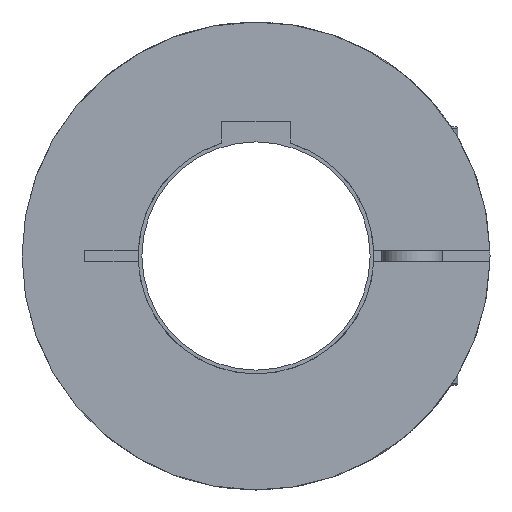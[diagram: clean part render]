
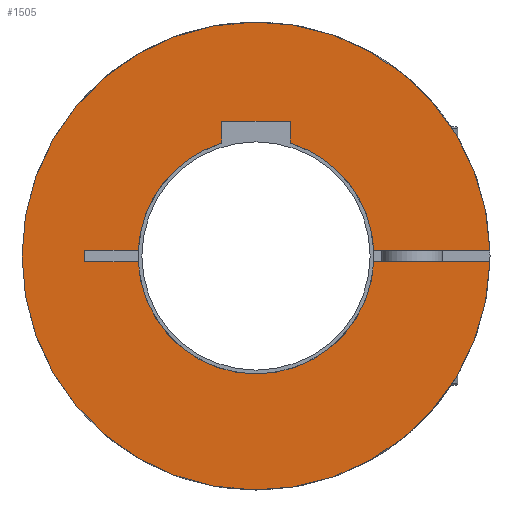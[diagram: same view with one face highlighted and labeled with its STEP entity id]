
A CAD part, left-side view. The second image highlights one B-rep face of the part: STEP entity #1505.
In plain terms, the highlighted planar face has unit normal (-1, 0, 0).
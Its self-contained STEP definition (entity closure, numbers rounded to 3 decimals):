
#42=PLANE('',#1710);
#142=LINE('',#2670,#253);
#144=LINE('',#2674,#255);
#145=LINE('',#2676,#256);
#156=LINE('',#2698,#267);
#159=LINE('',#2704,#270);
#174=LINE('',#2730,#285);
#175=LINE('',#2732,#286);
#194=LINE('',#2773,#305);
#253=VECTOR('',#2040,1.);
#255=VECTOR('',#2044,1.);
#256=VECTOR('',#2047,1.);
#267=VECTOR('',#2068,27.564);
#270=VECTOR('',#2075,27.564);
#285=VECTOR('',#2102,44.046);
#286=VECTOR('',#2105,44.046);
#305=VECTOR('',#2144,3.);
#403=FACE_OUTER_BOUND('',#503,.T.);
#503=EDGE_LOOP('',(#1303,#1304,#1305,#1306,#1307,#1308,#1309,#1310,#1311,
#1312,#1313,#1314));
#624=CIRCLE('',#1657,61.5);
#637=CIRCLE('',#1676,31.);
#640=CIRCLE('',#1680,31.);
#642=CIRCLE('',#1682,31.);
#718=VERTEX_POINT('',#2537);
#719=VERTEX_POINT('',#2539);
#739=VERTEX_POINT('',#2636);
#740=VERTEX_POINT('',#2637);
#745=VERTEX_POINT('',#2648);
#746=VERTEX_POINT('',#2650);
#749=VERTEX_POINT('',#2656);
#750=VERTEX_POINT('',#2658);
#753=VERTEX_POINT('',#2668);
#754=VERTEX_POINT('',#2672);
#760=VERTEX_POINT('',#2696);
#761=VERTEX_POINT('',#2703);
#890=EDGE_CURVE('',#718,#719,#624,.T.);
#915=EDGE_CURVE('',#739,#740,#637,.T.);
#921=EDGE_CURVE('',#746,#745,#640,.T.);
#925=EDGE_CURVE('',#750,#749,#642,.T.);
#931=EDGE_CURVE('',#749,#753,#142,.T.);
#933=EDGE_CURVE('',#753,#754,#144,.T.);
#934=EDGE_CURVE('',#754,#746,#145,.T.);
#945=EDGE_CURVE('',#760,#740,#156,.T.);
#948=EDGE_CURVE('',#761,#750,#159,.T.);
#963=EDGE_CURVE('',#745,#719,#174,.T.);
#964=EDGE_CURVE('',#718,#739,#175,.T.);
#983=EDGE_CURVE('',#761,#760,#194,.T.);
#1303=ORIENTED_EDGE('',*,*,#915,.T.);
#1304=ORIENTED_EDGE('',*,*,#945,.F.);
#1305=ORIENTED_EDGE('',*,*,#983,.F.);
#1306=ORIENTED_EDGE('',*,*,#948,.T.);
#1307=ORIENTED_EDGE('',*,*,#925,.T.);
#1308=ORIENTED_EDGE('',*,*,#931,.T.);
#1309=ORIENTED_EDGE('',*,*,#933,.T.);
#1310=ORIENTED_EDGE('',*,*,#934,.T.);
#1311=ORIENTED_EDGE('',*,*,#921,.T.);
#1312=ORIENTED_EDGE('',*,*,#963,.T.);
#1313=ORIENTED_EDGE('',*,*,#890,.F.);
#1314=ORIENTED_EDGE('',*,*,#964,.T.);
#1505=ADVANCED_FACE('',(#403),#42,.T.);
#1657=AXIS2_PLACEMENT_3D('',#2540,#1964,#1965);
#1676=AXIS2_PLACEMENT_3D('',#2638,#2012,#2013);
#1680=AXIS2_PLACEMENT_3D('',#2651,#2023,#2024);
#1682=AXIS2_PLACEMENT_3D('',#2659,#2029,#2030);
#1710=AXIS2_PLACEMENT_3D('',#2772,#2142,#2143);
#1964=DIRECTION('center_axis',(1.,0.,0.));
#1965=DIRECTION('ref_axis',(0.,1.,0.));
#2012=DIRECTION('center_axis',(1.,0.,0.));
#2013=DIRECTION('ref_axis',(0.,0.,1.));
#2023=DIRECTION('center_axis',(1.,0.,0.));
#2024=DIRECTION('ref_axis',(0.,0.,1.));
#2029=DIRECTION('center_axis',(1.,0.,0.));
#2030=DIRECTION('ref_axis',(0.,0.,1.));
#2040=DIRECTION('',(0.,0.,1.));
#2044=DIRECTION('',(0.,-1.,0.));
#2047=DIRECTION('',(0.,0.,-1.));
#2068=DIRECTION('',(0.,-1.,0.));
#2075=DIRECTION('',(0.,-1.,0.));
#2102=DIRECTION('',(0.,-1.,0.));
#2105=DIRECTION('',(0.,1.,0.));
#2142=DIRECTION('center_axis',(-1.,0.,0.));
#2143=DIRECTION('ref_axis',(0.,-1.,0.));
#2144=DIRECTION('',(0.,0.,-1.));
#2537=CARTESIAN_POINT('',(0.,-61.482,-1.5));
#2539=CARTESIAN_POINT('',(0.,-61.482,1.5));
#2540=CARTESIAN_POINT('Origin',(0.,0.,0.));
#2636=CARTESIAN_POINT('',(0.,-30.964,-1.5));
#2637=CARTESIAN_POINT('',(0.,30.964,-1.5));
#2638=CARTESIAN_POINT('Origin',(0.,0.,0.));
#2648=CARTESIAN_POINT('',(0.,-30.964,1.5));
#2650=CARTESIAN_POINT('',(0.,-9.,29.665));
#2651=CARTESIAN_POINT('Origin',(0.,0.,0.));
#2656=CARTESIAN_POINT('',(0.,9.,29.665));
#2658=CARTESIAN_POINT('',(0.,30.964,1.5));
#2659=CARTESIAN_POINT('Origin',(0.,0.,0.));
#2668=CARTESIAN_POINT('',(0.,9.,35.4));
#2670=CARTESIAN_POINT('',(0.,9.,39.6));
#2672=CARTESIAN_POINT('',(0.,-9.,35.4));
#2674=CARTESIAN_POINT('',(0.,0.,35.4));
#2676=CARTESIAN_POINT('',(0.,-9.,39.6));
#2696=CARTESIAN_POINT('',(0.,45.,-1.5));
#2698=CARTESIAN_POINT('',(0.,45.,-1.5));
#2703=CARTESIAN_POINT('',(0.,45.,1.5));
#2704=CARTESIAN_POINT('',(0.,45.,1.5));
#2730=CARTESIAN_POINT('',(0.,-17.436,1.5));
#2732=CARTESIAN_POINT('',(0.,-61.482,-1.5));
#2772=CARTESIAN_POINT('Origin',(0.,0.,61.5));
#2773=CARTESIAN_POINT('',(0.,45.,1.5));
